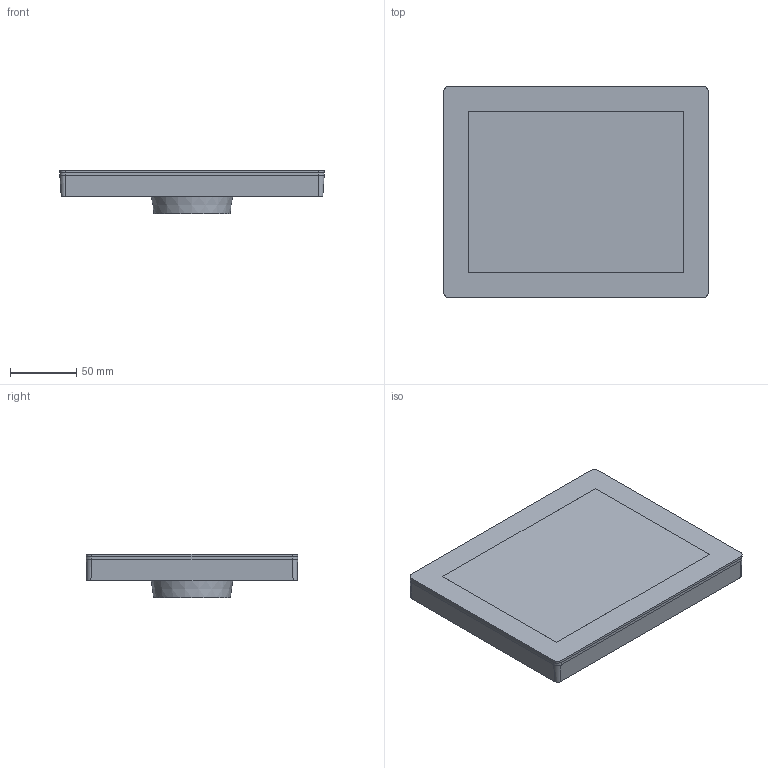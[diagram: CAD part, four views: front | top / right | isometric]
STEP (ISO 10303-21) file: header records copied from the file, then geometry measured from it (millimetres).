
FILE_DESCRIPTION(/* description */ ('STEP AP242','CAx-IF Rec.Pracs.---Representation and Presentation of Product Manufacturing Information (PMI)---4.0---2014-10-13','CAx-IF Rec.Pracs.---3D Tessellated Geometry---0.4---2014-09-14','2;1'),/* implementation_level */ '2;1');
FILE_NAME(/* name */ '6634dc777859092b1b9c27c2',/* time_stamp */ '2024-05-03T12:45:44Z',/* author */ (''),/* organization */ (''),/* preprocessor_version */ 'ST-DEVELOPER v20',/* originating_system */ ' ',/* authorisation */ ' ');
FILE_SCHEMA (('AP242_MANAGED_MODEL_BASED_3D_ENGINEERING_MIM_LF { 1 0 10303 442 1 1 4 }'));
Length unit declared in the file: metre
Products named in the file (1): Touch 8 W
Bounding box: 200 x 160 x 32.9 mm (x, y, z)
Volume: 671043.6 mm3; surface area: 79872 mm2
Topology: 1 solids, 1 shells, 51 faces, 119 edges, 74 vertices
Faces by surface type: plane 38, cone 5, cylinder 4, bspline 4
Entity records: 1504 total; most frequent: CARTESIAN_POINT 320, ORIENTED_EDGE 236, DIRECTION 232, EDGE_CURVE 118, LINE 100, VECTOR 100, VERTEX_POINT 74, AXIS2_PLACEMENT_3D 66
